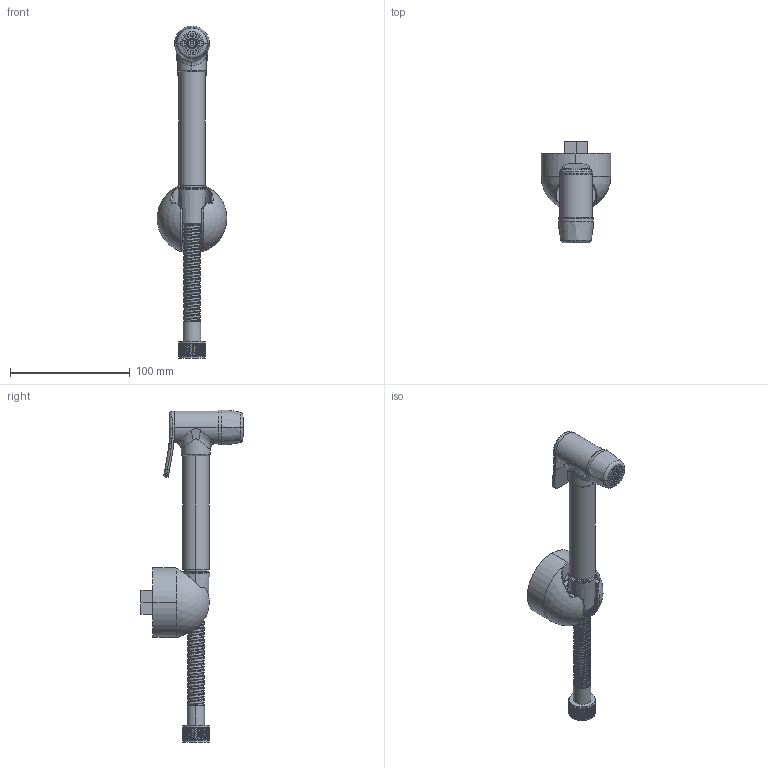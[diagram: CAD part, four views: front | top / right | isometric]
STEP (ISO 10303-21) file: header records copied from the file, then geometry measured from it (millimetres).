
FILE_DESCRIPTION((''),'2;1');
FILE_NAME('B0011AA_3DPL','2023-06-19T13:23:12',('HristovG'),('IDEAL STANDARD BVBA'),'CREO PARAMETRIC BY PTC INC, 2022024','CREO PARAMETRIC BY PTC INC, 2022024','');
FILE_SCHEMA(('AP242_MANAGED_MODEL_BASED_3D_ENGINEERING_MIM_LF { 1 0 10303 442 1 1 4 }'));
Length unit declared in the file: millimetre
Products named in the file (1): B0011AA_3DPL
Bounding box: 58 x 85.2 x 276.9 mm (x, y, z)
Volume: 180183.5 mm3; surface area: 46523.7 mm2
Topology: 1 solids, 4 shells, 2374 faces, 6160 edges, 3842 vertices
Faces by surface type: bspline 1323, cylinder 920, plane 82, torus 27, cone 13, extrusion 4, sphere 3, revolution 2
Entity records: 191375 total; most frequent: CARTESIAN_POINT 147445, ORIENTED_EDGE 12278, EDGE_CURVE 6145, B_SPLINE_CURVE_WITH_KNOTS 5303, VERTEX_POINT 3826, DIRECTION 3490, EDGE_LOOP 2426, FACE_OUTER_BOUND 2374
